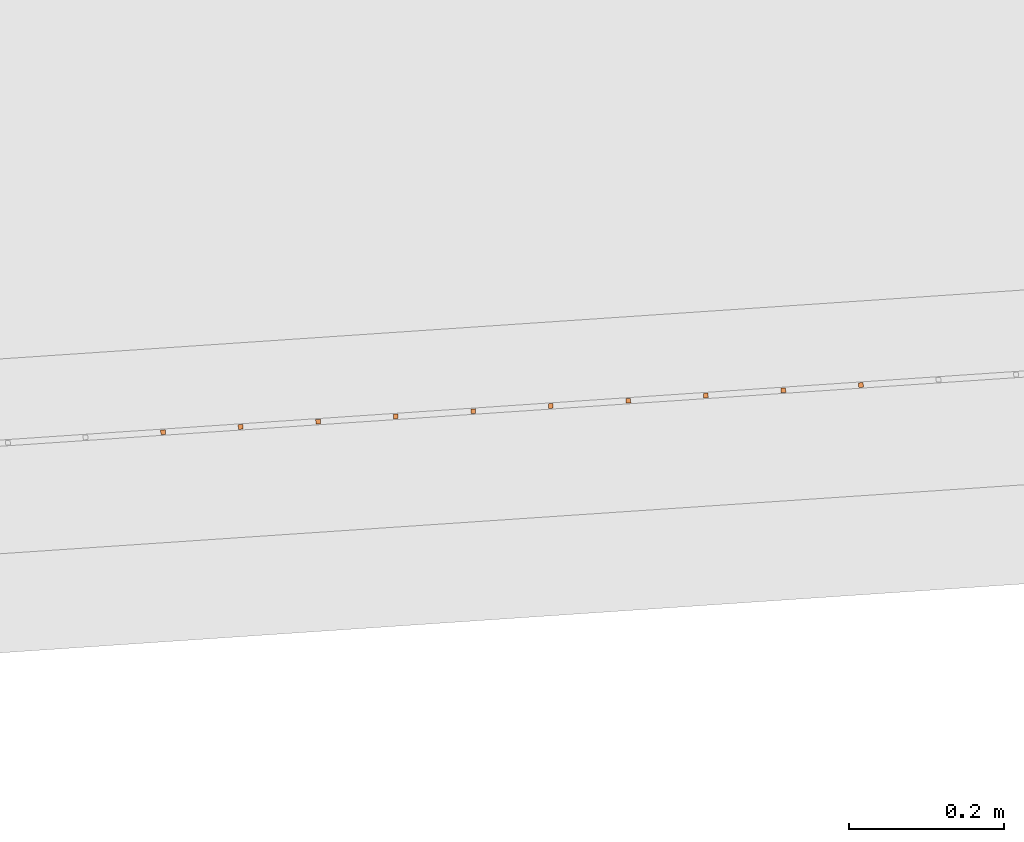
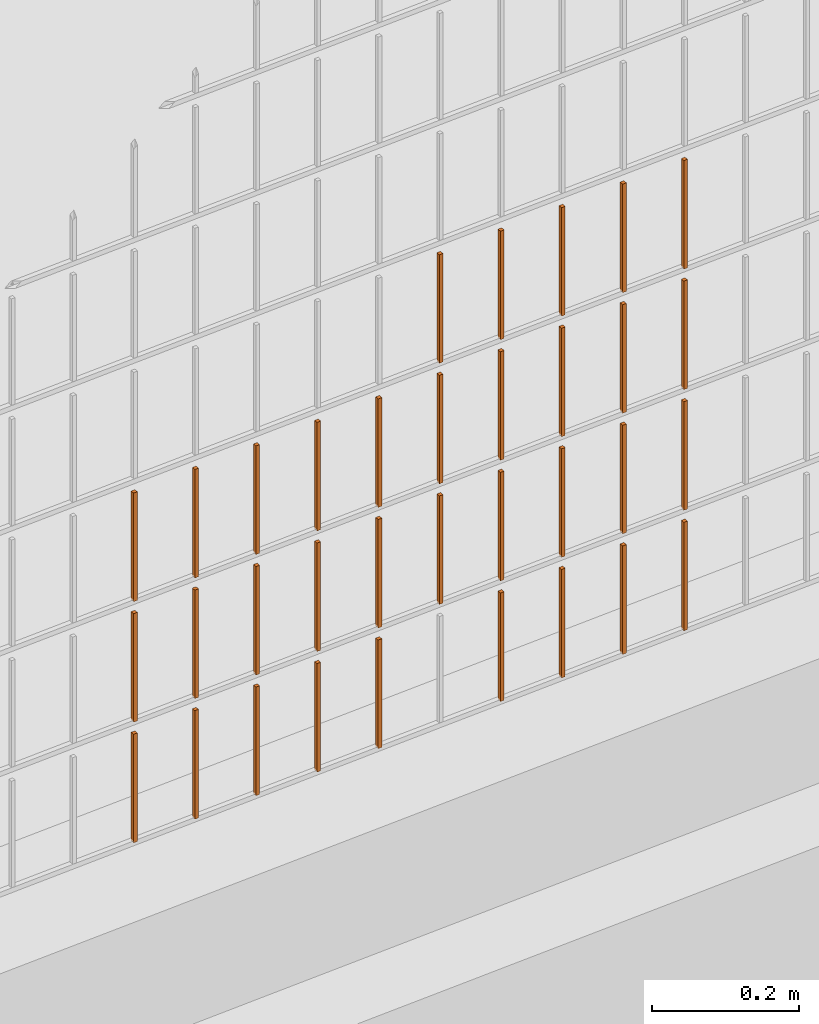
# One storey, part 286 of 1809: 34 proxies, 1 element without a shape of its own.
"""IFC2X3 building model written with IfcOpenShell, lengths in millimetres."""

import ifcopenshell
import ifcopenshell.guid

model = None  # the IFC model being written
_history = None  # IfcOwnerHistory: only IFC2X3 demands one
_inside = {}  # id of a spatial element -> (the spatial element, [elements in it])
_under = {}  # id of a project, library or spatial element -> (it, [spatial elements below it])
_declared = {}  # id of a project -> (the project, [libraries it declares])
_typed = {}  # id of a type object -> (the type object, [elements of that type])
_made_of = {}  # id of a material, layer set ... -> (it, [elements and type objects made of it])


def new_model(schema):
    """Start an empty IFC model of exactly this schema.

    Asked for "IFC4X3", IfcOpenShell would pick the latest addendum, in which some entities
    have other attributes; the version numbers below select the first issue.
    IFC2X3 requires an IfcOwnerHistory on every rooted entity: one is made here for all.
    """
    global model, _history
    if schema == "IFC4X3":
        model = ifcopenshell.file(schema_version=(4, 3, 0, 0))
    else:
        model = ifcopenshell.file(schema=schema)
    _inside.clear()
    _under.clear()
    _declared.clear()
    _typed.clear()
    _made_of.clear()
    _history = None
    if model.schema == "IFC2X3":
        org = make("IfcOrganization", Name="unknown")
        user = make(
            "IfcPersonAndOrganization",
            ThePerson=make("IfcPerson", FamilyName="unknown"),
            TheOrganization=org,
        )
        app = make(
            "IfcApplication",
            ApplicationDeveloper=org,
            Version="unknown",
            ApplicationFullName="unknown",
            ApplicationIdentifier="unknown",
        )
        _history = make(
            "IfcOwnerHistory",
            OwningUser=user,
            OwningApplication=app,
            ChangeAction="ADDED",
            CreationDate=0,
        )
    return model


def make(cls, **values):
    """One entity of the class cls with the attributes given. An attribute that is None is left unset."""
    return model.create_entity(
        cls, **{name: value for name, value in values.items() if value is not None}
    )


def entity(cls, *values):
    """Any entity or typed value of the class cls, its attributes in the order of the schema. None: left unset."""
    e = model.create_entity(cls)
    for i, value in enumerate(values):
        if value is not None:
            e[i] = value
    return e


def rooted(cls, **values):
    """An entity with a GlobalId (a new one), such as an element, a storey or a relation."""
    return make(cls, GlobalId=ifcopenshell.guid.new(), OwnerHistory=_history, **values)


def si_unit(unit_type, name, prefix=None):
    """IfcSIUnit, for example si_unit("LENGTHUNIT", "METRE", prefix="MILLI")."""
    return make("IfcSIUnit", UnitType=unit_type, Prefix=prefix, Name=name)


def converted_unit(unit_type, name, factor, base, dimensions=None, offset=None):
    """IfcConversionBasedUnit, such as the inch: factor (a typed value) times the base unit."""
    return make(
        "IfcConversionBasedUnit"
        if offset is None
        else "IfcConversionBasedUnitWithOffset",
        ConversionOffset=offset,
        Dimensions=None
        if dimensions is None
        else entity("IfcDimensionalExponents", *dimensions),
        UnitType=unit_type,
        Name=name,
        ConversionFactor=make(
            "IfcMeasureWithUnit", ValueComponent=factor, UnitComponent=base
        ),
    )


def derived_unit(unit_type, elements):
    """IfcDerivedUnit: a product of units, each with its exponent."""
    return make(
        "IfcDerivedUnit",
        Elements=[
            make("IfcDerivedUnitElement", Unit=unit, Exponent=power)
            for unit, power in elements
        ],
        UnitType=unit_type,
    )


def money_unit(currency):
    """IfcMonetaryUnit."""
    return make("IfcMonetaryUnit", Currency=currency)


def assignment(units):
    """IfcUnitAssignment: the units of a project."""
    return None if units is None else make("IfcUnitAssignment", Units=units)


def point(xyz):
    """IfcCartesianPoint."""
    return None if xyz is None else make("IfcCartesianPoint", Coordinates=xyz)


def direction(xyz):
    """IfcDirection."""
    return None if xyz is None else make("IfcDirection", DirectionRatios=xyz)


def frame(location, z_axis=None, x_axis=None):
    """IfcAxis2Placement3D, a coordinate frame: its origin and axes. An axis left out is left unset."""
    return make(
        "IfcAxis2Placement3D",
        Location=point(location),
        Axis=direction(z_axis),
        RefDirection=direction(x_axis),
    )


def origin_with_axes():
    """The frame at (0, 0, 0) with the z axis (0, 0, 1) and the x axis (1, 0, 0) written out."""
    return frame((0.0, 0.0, 0.0), z_axis=(0.0, 0.0, 1.0), x_axis=(1.0, 0.0, 0.0))


def place(relative_to, where):
    """IfcLocalPlacement: puts the frame where relative to a parent placement (None: the world)."""
    return make(
        "IfcLocalPlacement", PlacementRelTo=relative_to, RelativePlacement=where
    )


def context(
    kind, dimensions, precision=None, world=None, true_north=None, identifier=None
):
    """IfcGeometricRepresentationContext, for example the 3D "Model" context."""
    return make(
        "IfcGeometricRepresentationContext",
        ContextIdentifier=identifier,
        ContextType=kind,
        CoordinateSpaceDimension=dimensions,
        Precision=precision,
        WorldCoordinateSystem=world,
        TrueNorth=true_north,
    )


def subcontext(parent, identifier, kind, view, scale=None):
    """IfcGeometricRepresentationSubContext, for example "Body" below "Model"."""
    return make(
        "IfcGeometricRepresentationSubContext",
        ContextIdentifier=identifier,
        ContextType=kind,
        ParentContext=parent,
        TargetScale=scale,
        TargetView=view,
    )


def project(units=None, contexts=None):
    """IfcProject with its units and contexts."""
    return rooted(
        "IfcProject",
        Name="project",
        RepresentationContexts=contexts,
        UnitsInContext=assignment(units),
    )


def spatial(cls, under=None, at=None, **own):
    """A site, building, storey or space (cls), placed at a placement, below another one or the project."""
    s = rooted(cls, ObjectPlacement=at, **own)
    if under is not None:
        _under.setdefault(under.id(), (under, []))[1].append(s)
    return s


def faces_of(points, faces, orient=None, outer=None):
    """IfcFace entities. A face is a list of loops; a loop is a list of indices into points, from 0.

    orient and outer hold one flag for each loop. By default every Orientation is true, the
    first loop of a face is its IfcFaceOuterBound and the others are IfcFaceBound.
    """
    made = []
    for i, loops in enumerate(faces):
        bounds = []
        for j, loop in enumerate(loops):
            is_outer = j == 0 if outer is None else outer[i][j]
            bounds.append(
                make(
                    "IfcFaceOuterBound" if is_outer else "IfcFaceBound",
                    Bound=make("IfcPolyLoop", Polygon=[points[k] for k in loop]),
                    Orientation=True if orient is None else orient[i][j],
                )
            )
        made.append(make("IfcFace", Bounds=bounds))
    return made


def faceted_brep(points, faces, orient=None, outer=None, voids=None):
    """IfcFacetedBrep: a solid bounded by flat faces; with voids (closed shells), ...WithVoids."""
    shared = [point(p) for p in points]
    hull = make("IfcClosedShell", CfsFaces=faces_of(shared, faces, orient, outer))
    if voids is None:
        return make("IfcFacetedBrep", Outer=hull)
    return make(
        "IfcFacetedBrepWithVoids",
        Outer=hull,
        Voids=[
            make(cls, CfsFaces=faces_of(shared, fs, o, b)) for cls, fs, o, b in voids
        ],
    )


def shape(context_of_items, identifier, shape_type, items):
    """IfcShapeRepresentation: the items that make up one representation, for example the "Body"."""
    return make(
        "IfcShapeRepresentation",
        ContextOfItems=context_of_items,
        RepresentationIdentifier=identifier,
        RepresentationType=shape_type,
        Items=items,
    )


def source(mapping_origin, context_of_items, identifier, shape_type, items):
    """IfcRepresentationMap: a shape defined once, which mapped items show again and again."""
    return make(
        "IfcRepresentationMap",
        MappingOrigin=mapping_origin,
        MappedRepresentation=shape(context_of_items, identifier, shape_type, items),
    )


def transform(
    local_origin,
    x_axis=None,
    y_axis=None,
    z_axis=None,
    scale=None,
    scale2=None,
    scale3=None,
    uniform=True,
):
    """IfcCartesianTransformationOperator3D, or its non-uniform kind. x_axis, y_axis, z_axis: its Axis1, 2, 3."""
    if uniform:
        return make(
            "IfcCartesianTransformationOperator3D",
            Axis1=direction(x_axis),
            Axis2=direction(y_axis),
            LocalOrigin=point(local_origin),
            Scale=scale,
            Axis3=direction(z_axis),
        )
    return make(
        "IfcCartesianTransformationOperator3DnonUniform",
        Axis1=direction(x_axis),
        Axis2=direction(y_axis),
        LocalOrigin=point(local_origin),
        Scale=scale,
        Axis3=direction(z_axis),
        Scale2=scale2,
        Scale3=scale3,
    )


def mapped(mapping_source, mapping_target):
    """IfcMappedItem: shows the shape of a source again, moved by a transform."""
    return make(
        "IfcMappedItem", MappingSource=mapping_source, MappingTarget=mapping_target
    )


def material(Name=None, Category=None):
    """IfcMaterial."""
    return make("IfcMaterial", Name=Name, Category=Category)


def made_of(thing, what):
    """Note that an element or type object is made of a material, layer set ...; save() writes the relation."""
    if what is not None:
        _made_of.setdefault(what.id(), (what, []))[1].append(thing)
    return thing


def type_object(cls, material=None, **own):
    """A type object (cls), such as IfcWallType, which elements share."""
    return made_of(rooted(cls, **own), material)


def element(
    cls,
    number,
    at=None,
    inside=None,
    cuts=None,
    type_object=None,
    material=None,
    context=None,
    identifier="Body",
    shape_type=None,
    held_by="IfcProductDefinitionShape",
    body=None,
    shapes=None,
    **own,
):
    """One element of the class cls, such as IfcWall. Its Tag is "e" and its number.

    at: its placement. inside: the storey or other place that contains it. cuts: it is an
    opening in that element (IfcRelVoidsElement). A single representation is given by context,
    identifier, shape_type and body (its items); several are given by shapes. held_by: the class
    of the entity that holds the representations. save() writes the other relations.
    """
    e = rooted(cls, Tag="e%d" % number, ObjectPlacement=at, **own)
    if body is not None:
        shapes = [shape(context, identifier, shape_type, body)]
    if shapes is not None:
        e.Representation = make(held_by, Representations=shapes)
    if inside is not None:
        _inside.setdefault(inside.id(), (inside, []))[1].append(e)
    if cuts is not None:
        rooted(
            "IfcRelVoidsElement", RelatingBuildingElement=cuts, RelatedOpeningElement=e
        )
    if type_object is not None:
        _typed.setdefault(type_object.id(), (type_object, []))[1].append(e)
    return made_of(e, material)


def aggregate(whole, parts):
    """IfcRelAggregates: a whole, such as a stair, and the parts it consists of."""
    return rooted("IfcRelAggregates", RelatingObject=whole, RelatedObjects=parts)


def save(model, path):
    """Write the relations noted so far, then the file.

    IfcRelAggregates (storeys below a building ...), IfcRelContainedInSpatialStructure (elements
    in a storey), IfcRelDefinesByType, IfcRelAssociatesMaterial and IfcRelDeclares: one each for
    every whole, place, type object, material and project.
    """
    for whole, parts in _under.values():
        aggregate(whole, parts)
    for where, things in _inside.values():
        rooted(
            "IfcRelContainedInSpatialStructure",
            RelatedElements=things,
            RelatingStructure=where,
        )
    for kind, things in _typed.values():
        rooted("IfcRelDefinesByType", RelatedObjects=things, RelatingType=kind)
    for what, things in _made_of.values():
        rooted("IfcRelAssociatesMaterial", RelatedObjects=things, RelatingMaterial=what)
    for by, libraries in _declared.values():
        rooted("IfcRelDeclares", RelatingContext=by, RelatedDefinitions=libraries)
    model.write(path)


model = new_model("IFC2X3")

# Units and contexts
model_context = context("Model", 3, precision=0.01, world=origin_with_axes(), true_north=direction((0.0, 1.0)))
body_context = subcontext(model_context, "Body", "Model", "MODEL_VIEW")
ifc_project = project(units=[si_unit("LENGTHUNIT", "METRE", prefix="MILLI"), si_unit("AREAUNIT", "SQUARE_METRE"), si_unit("VOLUMEUNIT", "CUBIC_METRE"), converted_unit("PLANEANGLEUNIT", "DEGREE", entity("IfcPlaneAngleMeasure", 0.0174532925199), si_unit("PLANEANGLEUNIT", "RADIAN"), dimensions=[0, 0, 0, 0, 0, 0, 0]), si_unit("SOLIDANGLEUNIT", "STERADIAN"), money_unit("EUR"), converted_unit("TIMEUNIT", "Year", entity("IfcTimeMeasure", 31556926.0), si_unit("TIMEUNIT", "SECOND"), dimensions=[0, 0, 1, 0, 0, 0, 0]), si_unit("MASSUNIT", "GRAM", prefix="KILO"), si_unit("THERMODYNAMICTEMPERATUREUNIT", "DEGREE_CELSIUS"), si_unit("LUMINOUSINTENSITYUNIT", "LUMEN"), si_unit("ENERGYUNIT", "JOULE", prefix="MEGA"), derived_unit("THERMALCONDUCTANCEUNIT", [(si_unit("POWERUNIT", "WATT"), 1), (si_unit("LENGTHUNIT", "METRE"), -1), (si_unit("THERMODYNAMICTEMPERATUREUNIT", "KELVIN"), -1)]), derived_unit("SPECIFICHEATCAPACITYUNIT", [(si_unit("ENERGYUNIT", "JOULE"), 1), (si_unit("MASSUNIT", "GRAM", prefix="KILO"), -1), (si_unit("THERMODYNAMICTEMPERATUREUNIT", "KELVIN"), -1)]), derived_unit("MASSDENSITYUNIT", [(si_unit("MASSUNIT", "GRAM", prefix="KILO"), 1), (si_unit("VOLUMEUNIT", "CUBIC_METRE"), -1)])], contexts=[model_context])

# Site, building, storey
site_placement = place(None, origin_with_axes())
site = spatial("IfcSite", under=ifc_project, at=site_placement, Name="Politse- ja Piirivalveameti ning Päästeameti ühishoone", CompositionType="ELEMENT")
building_placement = place(site_placement, origin_with_axes())
building = spatial("IfcBuilding", under=site, at=building_placement, Name="Politse- ja Piirivalveameti ning Päästeameti ühishoone", CompositionType="ELEMENT")
storey_placement = place(building_placement, origin_with_axes())
storey = spatial("IfcBuildingStorey", under=building, at=storey_placement, Name="Esimene korrus", CompositionType="ELEMENT", Elevation=0.0)

# Proxies
building_element_proxy_type_1 = type_object("IfcBuildingElementProxyType", Name="Railing Type", PredefinedType="NOTDEFINED")
proxy_1_placement = place(storey_placement, frame((89252.001212, -29183.4766571, 203.661247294), z_axis=(0.0, 0.0, 1.0), x_axis=(1.0, 0.0, 0.0)))
proxy_1 = element("IfcBuildingElementProxy", 1, at=proxy_1_placement, inside=storey, type_object=building_element_proxy_type_1, Name="PIIRDEAED")
ifc_material = material(Name="ET-03_Raud")
building_element_proxy_type_2 = type_object("IfcBuildingElementProxyType", Name="IfcBuildingElementProxy", PredefinedType="NOTDEFINED")
shared_shape_1 = source(origin_with_axes(), body_context, "Body", "Brep", [
    faceted_brep([(3.0, 3.0, -0.000752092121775), (-3.0, 3.0, -0.000752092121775), (-3.0, 3.0, 179.99926046), (3.0, 3.0, 179.99926046), (3.0, -3.0, 0.000752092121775), (-3.0, -3.0, 0.000752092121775), (-3.0, -3.0, 180.000764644), (3.0, -3.0, 180.000764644)], [[[0, 1, 2, 3]], [[0, 4, 5, 1]], [[1, 5, 6, 2]], [[3, 2, 6, 7]], [[4, 0, 3, 7]], [[5, 4, 7, 6]]]),
])
proxy_2_placement = place(proxy_1_placement, frame((-48316.5913585, -20561.3781676, 15.0939420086), z_axis=(0.0, 0.0, 1.0), x_axis=(1.0, 0.0, 0.0)))
proxy_2 = element("IfcBuildingElementProxy", 2, at=proxy_2_placement, type_object=building_element_proxy_type_2, material=ifc_material, Name="BALUSTER - 001", context=body_context, shape_type="MappedRepresentation", body=[
    mapped(shared_shape_1, transform((0.0, 0.0, 0.0), x_axis=(-0.0673926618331, 0.997726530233, 0.0), y_axis=(-0.997726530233, -0.0673926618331, 0.0), z_axis=(0.0, 0.0, 1.0))),
])
proxy_3_placement = place(proxy_1_placement, frame((-48815.4546236, -20595.0744985, 14.9685933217), z_axis=(0.0, 0.0, 1.0), x_axis=(1.0, 0.0, 0.0)))
proxy_3 = element("IfcBuildingElementProxy", 3, at=proxy_3_placement, type_object=building_element_proxy_type_2, material=ifc_material, Name="BALUSTER - 001", context=body_context, shape_type="MappedRepresentation", body=[
    mapped(shared_shape_1, transform((0.0, 0.0, 0.0), x_axis=(-0.0673926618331, 0.997726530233, 0.0), y_axis=(-0.997726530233, -0.0673926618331, 0.0), z_axis=(0.0, 0.0, 1.0))),
])
shared_shape_2 = source(origin_with_axes(), body_context, "Body", "Brep", [
    faceted_brep([(3.0, 3.0, -0.000752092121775), (-3.0, 3.0, -0.000752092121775), (-3.0, 3.0, 179.99926046), (3.0, 3.0, 179.99926046), (3.0, -3.0, 0.000752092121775), (-3.0, -3.0, 0.000752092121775), (-3.0, -3.0, 180.000764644), (3.0, -3.0, 180.000764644)], [[[0, 1, 2, 3]], [[0, 4, 5, 1]], [[1, 5, 6, 2]], [[3, 2, 6, 7]], [[4, 0, 3, 7]], [[5, 4, 7, 6]]]),
])
proxy_4_placement = place(proxy_1_placement, frame((-48416.3640115, -20568.1174338, 15.0688722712), z_axis=(0.0, 0.0, 1.0), x_axis=(1.0, 0.0, 0.0)))
proxy_4 = element("IfcBuildingElementProxy", 4, at=proxy_4_placement, type_object=building_element_proxy_type_2, material=ifc_material, Name="BALUSTER - 001", context=body_context, shape_type="MappedRepresentation", body=[
    mapped(shared_shape_2, transform((0.0, 0.0, 0.0), x_axis=(-0.0673926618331, 0.997726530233, 0.0), y_axis=(-0.997726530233, -0.0673926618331, 0.0), z_axis=(0.0, 0.0, 1.0))),
])
proxy_5_placement = place(proxy_1_placement, frame((-48316.5913585, -20561.3781676, 215.093942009), z_axis=(0.0, 0.0, 1.0), x_axis=(1.0, 0.0, 0.0)))
proxy_5 = element("IfcBuildingElementProxy", 5, at=proxy_5_placement, type_object=building_element_proxy_type_2, material=ifc_material, Name="BALUSTER - 001", context=body_context, shape_type="MappedRepresentation", body=[
    mapped(shared_shape_2, transform((0.0, 0.0, 0.0), x_axis=(-0.0673926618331, 0.997726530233, 0.0), y_axis=(-0.997726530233, -0.0673926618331, 0.0), z_axis=(0.0, 0.0, 1.0))),
])
shared_shape_3 = source(origin_with_axes(), body_context, "Body", "Brep", [
    faceted_brep([(3.0, 3.0, -0.000752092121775), (-3.0, 3.0, -0.000752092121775), (-3.0, 3.0, 179.99926046), (3.0, 3.0, 179.99926046), (3.0, -3.0, 0.000752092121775), (-3.0, -3.0, 0.000752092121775), (-3.0, -3.0, 180.000764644), (3.0, -3.0, 180.000764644)], [[[0, 1, 2, 3]], [[0, 4, 5, 1]], [[1, 5, 6, 2]], [[3, 2, 6, 7]], [[4, 0, 3, 7]], [[5, 4, 7, 6]]]),
])
proxy_6_placement = place(proxy_1_placement, frame((-48416.3640115, -20568.1174338, 215.068872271), z_axis=(0.0, 0.0, 1.0), x_axis=(1.0, 0.0, 0.0)))
proxy_6 = element("IfcBuildingElementProxy", 6, at=proxy_6_placement, type_object=building_element_proxy_type_2, material=ifc_material, Name="BALUSTER - 001", context=body_context, shape_type="MappedRepresentation", body=[
    mapped(shared_shape_3, transform((0.0, 0.0, 0.0), x_axis=(-0.0673926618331, 0.997726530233, 0.0), y_axis=(-0.997726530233, -0.0673926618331, 0.0), z_axis=(0.0, 0.0, 1.0))),
])
shared_shape_4 = source(origin_with_axes(), body_context, "Body", "Brep", [
    faceted_brep([(3.0, 3.0, -0.000752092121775), (-3.0, 3.0, -0.000752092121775), (-3.0, 3.0, 179.99926046), (3.0, 3.0, 179.99926046), (3.0, -3.0, 0.000752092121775), (-3.0, -3.0, 0.000752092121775), (-3.0, -3.0, 180.000764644), (3.0, -3.0, 180.000764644)], [[[0, 1, 2, 3]], [[0, 4, 5, 1]], [[1, 5, 6, 2]], [[3, 2, 6, 7]], [[4, 0, 3, 7]], [[5, 4, 7, 6]]]),
])
proxy_7_placement = place(proxy_1_placement, frame((-48416.3640115, -20568.1174338, 415.068872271), z_axis=(0.0, 0.0, 1.0), x_axis=(1.0, 0.0, 0.0)))
proxy_7 = element("IfcBuildingElementProxy", 7, at=proxy_7_placement, type_object=building_element_proxy_type_2, material=ifc_material, Name="BALUSTER - 001", context=body_context, shape_type="MappedRepresentation", body=[
    mapped(shared_shape_4, transform((0.0, 0.0, 0.0), x_axis=(-0.0673926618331, 0.997726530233, 0.0), y_axis=(-0.997726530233, -0.0673926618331, 0.0), z_axis=(0.0, 0.0, 1.0))),
])
proxy_8_placement = place(proxy_1_placement, frame((-48815.4546236, -20595.0744985, 414.968593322), z_axis=(0.0, 0.0, 1.0), x_axis=(1.0, 0.0, 0.0)))
proxy_8 = element("IfcBuildingElementProxy", 8, at=proxy_8_placement, type_object=building_element_proxy_type_2, material=ifc_material, Name="BALUSTER - 001", context=body_context, shape_type="MappedRepresentation", body=[
    mapped(shared_shape_4, transform((0.0, 0.0, 0.0), x_axis=(-0.0673926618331, 0.997726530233, 0.0), y_axis=(-0.997726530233, -0.0673926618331, 0.0), z_axis=(0.0, 0.0, 1.0))),
])
shared_shape_5 = source(origin_with_axes(), body_context, "Body", "Brep", [
    faceted_brep([(3.0, 3.0, -0.000752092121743), (-3.0, 3.0, -0.000752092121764), (-3.0, 3.0, 179.99926046), (3.0, 3.0, 179.99926046), (3.0, -3.0, 0.000752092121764), (-3.0, -3.0, 0.000752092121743), (-3.0, -3.0, 180.000764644), (3.0, -3.0, 180.000764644)], [[[0, 1, 2, 3]], [[0, 4, 5, 1]], [[1, 5, 6, 2]], [[3, 2, 6, 7]], [[4, 0, 3, 7]], [[5, 4, 7, 6]]]),
])
proxy_9_placement = place(proxy_1_placement, frame((-48715.6819706, -20588.3352324, 214.993663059), z_axis=(0.0, 0.0, 1.0), x_axis=(1.0, 0.0, 0.0)))
proxy_9 = element("IfcBuildingElementProxy", 9, at=proxy_9_placement, type_object=building_element_proxy_type_2, material=ifc_material, Name="BALUSTER - 001", context=body_context, shape_type="MappedRepresentation", body=[
    mapped(shared_shape_5, transform((0.0, 0.0, 0.0), x_axis=(-0.0673926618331, 0.997726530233, 0.0), y_axis=(-0.997726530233, -0.0673926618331, 0.0), z_axis=(0.0, 0.0, 1.0))),
])
proxy_10_placement = place(proxy_1_placement, frame((-48715.6819706, -20588.3352324, 414.993663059), z_axis=(0.0, 0.0, 1.0), x_axis=(1.0, 0.0, 0.0)))
proxy_10 = element("IfcBuildingElementProxy", 10, at=proxy_10_placement, type_object=building_element_proxy_type_2, material=ifc_material, Name="BALUSTER - 001", context=body_context, shape_type="MappedRepresentation", body=[
    mapped(shared_shape_5, transform((0.0, 0.0, 0.0), x_axis=(-0.0673926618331, 0.997726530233, 0.0), y_axis=(-0.997726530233, -0.0673926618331, 0.0), z_axis=(0.0, 0.0, 1.0))),
])
shared_shape_6 = source(origin_with_axes(), body_context, "Body", "Brep", [
    faceted_brep([(3.0, 3.0, -0.000752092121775), (-3.0, 3.0, -0.000752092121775), (-3.0, 3.0, 179.99926046), (3.0, 3.0, 179.99926046), (3.0, -3.0, 0.000752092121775), (-3.0, -3.0, 0.000752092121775), (-3.0, -3.0, 180.000764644), (3.0, -3.0, 180.000764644)], [[[0, 1, 2, 3]], [[0, 4, 5, 1]], [[1, 5, 6, 2]], [[3, 2, 6, 7]], [[4, 0, 3, 7]], [[5, 4, 7, 6]]]),
])
proxy_11_placement = place(proxy_1_placement, frame((-48316.5913585, -20561.3781676, 615.093942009), z_axis=(0.0, 0.0, 1.0), x_axis=(1.0, 0.0, 0.0)))
proxy_11 = element("IfcBuildingElementProxy", 11, at=proxy_11_placement, type_object=building_element_proxy_type_2, material=ifc_material, Name="BALUSTER - 001", context=body_context, shape_type="MappedRepresentation", body=[
    mapped(shared_shape_6, transform((0.0, 0.0, 0.0), x_axis=(-0.0673926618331, 0.997726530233, 0.0), y_axis=(-0.997726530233, -0.0673926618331, 0.0), z_axis=(0.0, 0.0, 1.0))),
])
shared_shape_7 = source(origin_with_axes(), body_context, "Body", "Brep", [
    faceted_brep([(3.0, 3.0, -0.000752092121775), (-3.0, 3.0, -0.000752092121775), (-3.0, 3.0, 179.99926046), (3.0, 3.0, 179.99926046), (3.0, -3.0, 0.000752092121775), (-3.0, -3.0, 0.000752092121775), (-3.0, -3.0, 180.000764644), (3.0, -3.0, 180.000764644)], [[[0, 1, 2, 3]], [[0, 4, 5, 1]], [[1, 5, 6, 2]], [[3, 2, 6, 7]], [[4, 0, 3, 7]], [[5, 4, 7, 6]]]),
])
proxy_12_placement = place(proxy_1_placement, frame((-48416.3640115, -20568.1174338, 615.068872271), z_axis=(0.0, 0.0, 1.0), x_axis=(1.0, 0.0, 0.0)))
proxy_12 = element("IfcBuildingElementProxy", 12, at=proxy_12_placement, type_object=building_element_proxy_type_2, material=ifc_material, Name="BALUSTER - 001", context=body_context, shape_type="MappedRepresentation", body=[
    mapped(shared_shape_7, transform((0.0, 0.0, 0.0), x_axis=(-0.0673926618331, 0.997726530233, 0.0), y_axis=(-0.997726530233, -0.0673926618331, 0.0), z_axis=(0.0, 0.0, 1.0))),
])
shared_shape_8 = source(origin_with_axes(), body_context, "Body", "Brep", [
    faceted_brep([(3.0, 3.0, -0.000752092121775), (-3.0, 3.0, -0.000752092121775), (-3.0, 3.0, 179.99926046), (3.0, 3.0, 179.99926046), (3.0, -3.0, 0.000752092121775), (-3.0, -3.0, 0.000752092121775), (-3.0, -3.0, 180.000764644), (3.0, -3.0, 180.000764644)], [[[0, 1, 2, 3]], [[0, 4, 5, 1]], [[1, 5, 6, 2]], [[3, 2, 6, 7]], [[4, 0, 3, 7]], [[5, 4, 7, 6]]]),
])
proxy_13_placement = place(proxy_1_placement, frame((-48316.5913585, -20561.3781676, 415.093942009), z_axis=(0.0, 0.0, 1.0), x_axis=(1.0, 0.0, 0.0)))
proxy_13 = element("IfcBuildingElementProxy", 13, at=proxy_13_placement, type_object=building_element_proxy_type_2, material=ifc_material, Name="BALUSTER - 001", context=body_context, shape_type="MappedRepresentation", body=[
    mapped(shared_shape_8, transform((0.0, 0.0, 0.0), x_axis=(-0.0673926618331, 0.997726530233, 0.0), y_axis=(-0.997726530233, -0.0673926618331, 0.0), z_axis=(0.0, 0.0, 1.0))),
])
shared_shape_9 = source(origin_with_axes(), body_context, "Body", "Brep", [
    faceted_brep([(3.0, 3.0, -0.000752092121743), (-3.0, 3.0, -0.000752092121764), (-3.0, 3.0, 179.99926046), (3.0, 3.0, 179.99926046), (3.0, -3.0, 0.000752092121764), (-3.0, -3.0, 0.000752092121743), (-3.0, -3.0, 180.000764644), (3.0, -3.0, 180.000764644)], [[[0, 1, 2, 3]], [[0, 4, 5, 1]], [[1, 5, 6, 2]], [[3, 2, 6, 7]], [[4, 0, 3, 7]], [[5, 4, 7, 6]]]),
])
proxy_14_placement = place(proxy_1_placement, frame((-48715.6819706, -20588.3352324, 14.9936630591), z_axis=(0.0, 0.0, 1.0), x_axis=(1.0, 0.0, 0.0)))
proxy_14 = element("IfcBuildingElementProxy", 14, at=proxy_14_placement, type_object=building_element_proxy_type_2, material=ifc_material, Name="BALUSTER - 001", context=body_context, shape_type="MappedRepresentation", body=[
    mapped(shared_shape_9, transform((0.0, 0.0, 0.0), x_axis=(-0.0673926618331, 0.997726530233, 0.0), y_axis=(-0.997726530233, -0.0673926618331, 0.0), z_axis=(0.0, 0.0, 1.0))),
])
shared_shape_10 = source(origin_with_axes(), body_context, "Body", "Brep", [
    faceted_brep([(3.0, 3.0, -0.000752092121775), (-3.0, 3.0, -0.000752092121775), (-3.0, 3.0, 179.99926046), (3.0, 3.0, 179.99926046), (3.0, -3.0, 0.000752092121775), (-3.0, -3.0, 0.000752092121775), (-3.0, -3.0, 180.000764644), (3.0, -3.0, 180.000764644)], [[[0, 1, 2, 3]], [[0, 4, 5, 1]], [[1, 5, 6, 2]], [[3, 2, 6, 7]], [[4, 0, 3, 7]], [[5, 4, 7, 6]]]),
])
proxy_15_placement = place(proxy_1_placement, frame((-48815.4546236, -20595.0744985, 214.968593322), z_axis=(0.0, 0.0, 1.0), x_axis=(1.0, 0.0, 0.0)))
proxy_15 = element("IfcBuildingElementProxy", 15, at=proxy_15_placement, type_object=building_element_proxy_type_2, material=ifc_material, Name="BALUSTER - 001", context=body_context, shape_type="MappedRepresentation", body=[
    mapped(shared_shape_10, transform((0.0, 0.0, 0.0), x_axis=(-0.0673926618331, 0.997726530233, 0.0), y_axis=(-0.997726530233, -0.0673926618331, 0.0), z_axis=(0.0, 0.0, 1.0))),
])
shared_shape_11 = source(origin_with_axes(), body_context, "Body", "Brep", [
    faceted_brep([(3.0, 3.0, -0.000752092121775), (-3.0, 3.0, -0.000752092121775), (-3.0, 3.0, 179.99926046), (3.0, 3.0, 179.99926046), (3.0, -3.0, 0.000752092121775), (-3.0, -3.0, 0.000752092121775), (-3.0, -3.0, 180.000764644), (3.0, -3.0, 180.000764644)], [[[0, 1, 2, 3]], [[0, 4, 5, 1]], [[1, 5, 6, 2]], [[3, 2, 6, 7]], [[4, 0, 3, 7]], [[5, 4, 7, 6]]]),
])
proxy_16_placement = place(proxy_1_placement, frame((-49014.9999296, -20608.5530309, 14.9184538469), z_axis=(0.0, 0.0, 1.0), x_axis=(1.0, 0.0, 0.0)))
proxy_16 = element("IfcBuildingElementProxy", 16, at=proxy_16_placement, type_object=building_element_proxy_type_2, material=ifc_material, Name="BALUSTER - 001", context=body_context, shape_type="MappedRepresentation", body=[
    mapped(shared_shape_11, transform((0.0, 0.0, 0.0), x_axis=(-0.0673926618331, 0.997726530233, 0.0), y_axis=(-0.997726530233, -0.0673926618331, 0.0), z_axis=(0.0, 0.0, 1.0))),
])
proxy_17_placement = place(proxy_1_placement, frame((-49014.9999296, -20608.5530309, 214.918453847), z_axis=(0.0, 0.0, 1.0), x_axis=(1.0, 0.0, 0.0)))
proxy_17 = element("IfcBuildingElementProxy", 17, at=proxy_17_placement, type_object=building_element_proxy_type_2, material=ifc_material, Name="BALUSTER - 001", context=body_context, shape_type="MappedRepresentation", body=[
    mapped(shared_shape_11, transform((0.0, 0.0, 0.0), x_axis=(-0.0673926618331, 0.997726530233, 0.0), y_axis=(-0.997726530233, -0.0673926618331, 0.0), z_axis=(0.0, 0.0, 1.0))),
])
shared_shape_12 = source(origin_with_axes(), body_context, "Body", "Brep", [
    faceted_brep([(3.0, 3.0, -0.000752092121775), (-3.0, 3.0, -0.000752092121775), (-3.0, 3.0, 179.99926046), (3.0, 3.0, 179.99926046), (3.0, -3.0, 0.000752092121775), (-3.0, -3.0, 0.000752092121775), (-3.0, -3.0, 180.000764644), (3.0, -3.0, 180.000764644)], [[[0, 1, 2, 3]], [[0, 4, 5, 1]], [[1, 5, 6, 2]], [[3, 2, 6, 7]], [[4, 0, 3, 7]], [[5, 4, 7, 6]]]),
])
proxy_18_placement = place(proxy_1_placement, frame((-48216.8187054, -20554.6389014, 415.119011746), z_axis=(0.0, 0.0, 1.0), x_axis=(1.0, 0.0, 0.0)))
proxy_18 = element("IfcBuildingElementProxy", 18, at=proxy_18_placement, type_object=building_element_proxy_type_2, material=ifc_material, Name="BALUSTER - 001", context=body_context, shape_type="MappedRepresentation", body=[
    mapped(shared_shape_12, transform((0.0, 0.0, 0.0), x_axis=(-0.0673926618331, 0.997726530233, 0.0), y_axis=(-0.997726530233, -0.0673926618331, 0.0), z_axis=(0.0, 0.0, 1.0))),
])
proxy_19_placement = place(proxy_1_placement, frame((-49014.9999296, -20608.5530309, 414.918453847), z_axis=(0.0, 0.0, 1.0), x_axis=(1.0, 0.0, 0.0)))
proxy_19 = element("IfcBuildingElementProxy", 19, at=proxy_19_placement, type_object=building_element_proxy_type_2, material=ifc_material, Name="BALUSTER - 001", context=body_context, shape_type="MappedRepresentation", body=[
    mapped(shared_shape_12, transform((0.0, 0.0, 0.0), x_axis=(-0.0673926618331, 0.997726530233, 0.0), y_axis=(-0.997726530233, -0.0673926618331, 0.0), z_axis=(0.0, 0.0, 1.0))),
])
proxy_20_placement = place(proxy_1_placement, frame((-48216.8187054, -20554.6389014, 615.119011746), z_axis=(0.0, 0.0, 1.0), x_axis=(1.0, 0.0, 0.0)))
proxy_20 = element("IfcBuildingElementProxy", 20, at=proxy_20_placement, type_object=building_element_proxy_type_2, material=ifc_material, Name="BALUSTER - 001", context=body_context, shape_type="MappedRepresentation", body=[
    mapped(shared_shape_12, transform((0.0, 0.0, 0.0), x_axis=(-0.0673926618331, 0.997726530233, 0.0), y_axis=(-0.997726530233, -0.0673926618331, 0.0), z_axis=(0.0, 0.0, 1.0))),
])
shared_shape_13 = source(origin_with_axes(), body_context, "Body", "Brep", [
    faceted_brep([(3.0, 3.0, -0.000752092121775), (-3.0, 3.0, -0.000752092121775), (-3.0, 3.0, 179.99926046), (3.0, 3.0, 179.99926046), (3.0, -3.0, 0.000752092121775), (-3.0, -3.0, 0.000752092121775), (-3.0, -3.0, 180.000764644), (3.0, -3.0, 180.000764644)], [[[0, 1, 2, 3]], [[0, 4, 5, 1]], [[1, 5, 6, 2]], [[3, 2, 6, 7]], [[4, 0, 3, 7]], [[5, 4, 7, 6]]]),
])
proxy_21_placement = place(proxy_1_placement, frame((-48216.8187054, -20554.6389014, 215.119011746), z_axis=(0.0, 0.0, 1.0), x_axis=(1.0, 0.0, 0.0)))
proxy_21 = element("IfcBuildingElementProxy", 21, at=proxy_21_placement, type_object=building_element_proxy_type_2, material=ifc_material, Name="BALUSTER - 001", context=body_context, shape_type="MappedRepresentation", body=[
    mapped(shared_shape_13, transform((0.0, 0.0, 0.0), x_axis=(-0.0673926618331, 0.997726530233, 0.0), y_axis=(-0.997726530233, -0.0673926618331, 0.0), z_axis=(0.0, 0.0, 1.0))),
])
shared_shape_14 = source(origin_with_axes(), body_context, "Body", "Brep", [
    faceted_brep([(3.0, 3.0, -0.000752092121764), (-3.0, 3.0, -0.000752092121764), (-3.0, 3.0, 179.99926046), (3.0, 3.0, 179.99926046), (3.0, -3.0, 0.000752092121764), (-3.0, -3.0, 0.000752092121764), (-3.0, -3.0, 180.000764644), (3.0, -3.0, 180.000764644)], [[[0, 1, 2, 3]], [[0, 4, 5, 1]], [[1, 5, 6, 2]], [[3, 2, 6, 7]], [[4, 0, 3, 7]], [[5, 4, 7, 6]]]),
])
proxy_22_placement = place(proxy_1_placement, frame((-48915.2272766, -20601.8137647, 14.9435235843), z_axis=(0.0, 0.0, 1.0), x_axis=(1.0, 0.0, 0.0)))
proxy_22 = element("IfcBuildingElementProxy", 22, at=proxy_22_placement, type_object=building_element_proxy_type_2, material=ifc_material, Name="BALUSTER - 001", context=body_context, shape_type="MappedRepresentation", body=[
    mapped(shared_shape_14, transform((0.0, 0.0, 0.0), x_axis=(-0.0673926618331, 0.997726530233, 0.0), y_axis=(-0.997726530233, -0.0673926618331, 0.0), z_axis=(0.0, 0.0, 1.0))),
])
shared_shape_15 = source(origin_with_axes(), body_context, "Body", "Brep", [
    faceted_brep([(3.0, 3.0, -0.000752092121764), (-3.0, 3.0, -0.000752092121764), (-3.0, 3.0, 179.99926046), (3.0, 3.0, 179.99926046), (3.0, -3.0, 0.000752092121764), (-3.0, -3.0, 0.000752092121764), (-3.0, -3.0, 180.000764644), (3.0, -3.0, 180.000764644)], [[[0, 1, 2, 3]], [[0, 4, 5, 1]], [[1, 5, 6, 2]], [[3, 2, 6, 7]], [[4, 0, 3, 7]], [[5, 4, 7, 6]]]),
])
proxy_23_placement = place(proxy_1_placement, frame((-48915.2272766, -20601.8137647, 414.943523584), z_axis=(0.0, 0.0, 1.0), x_axis=(1.0, 0.0, 0.0)))
proxy_23 = element("IfcBuildingElementProxy", 23, at=proxy_23_placement, type_object=building_element_proxy_type_2, material=ifc_material, Name="BALUSTER - 001", context=body_context, shape_type="MappedRepresentation", body=[
    mapped(shared_shape_15, transform((0.0, 0.0, 0.0), x_axis=(-0.0673926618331, 0.997726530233, 0.0), y_axis=(-0.997726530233, -0.0673926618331, 0.0), z_axis=(0.0, 0.0, 1.0))),
])
shared_shape_16 = source(origin_with_axes(), body_context, "Body", "Brep", [
    faceted_brep([(3.0, 3.0, -0.000752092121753), (-3.0, 3.0, -0.000752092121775), (-3.0, 3.0, 179.99926046), (3.0, 3.0, 179.99926046), (3.0, -3.0, 0.000752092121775), (-3.0, -3.0, 0.000752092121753), (-3.0, -3.0, 180.000764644), (3.0, -3.0, 180.000764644)], [[[0, 1, 2, 3]], [[0, 4, 5, 1]], [[1, 5, 6, 2]], [[3, 2, 6, 7]], [[4, 0, 3, 7]], [[5, 4, 7, 6]]]),
])
proxy_24_placement = place(proxy_1_placement, frame((-48516.1366645, -20574.8567, 215.043802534), z_axis=(0.0, 0.0, 1.0), x_axis=(1.0, 0.0, 0.0)))
proxy_24 = element("IfcBuildingElementProxy", 24, at=proxy_24_placement, type_object=building_element_proxy_type_2, material=ifc_material, Name="BALUSTER - 001", context=body_context, shape_type="MappedRepresentation", body=[
    mapped(shared_shape_16, transform((0.0, 0.0, 0.0), x_axis=(-0.0673926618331, 0.997726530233, 0.0), y_axis=(-0.997726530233, -0.0673926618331, 0.0), z_axis=(0.0, 0.0, 1.0))),
])
proxy_25_placement = place(proxy_1_placement, frame((-48516.1366645, -20574.8567, 415.043802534), z_axis=(0.0, 0.0, 1.0), x_axis=(1.0, 0.0, 0.0)))
proxy_25 = element("IfcBuildingElementProxy", 25, at=proxy_25_placement, type_object=building_element_proxy_type_2, material=ifc_material, Name="BALUSTER - 001", context=body_context, shape_type="MappedRepresentation", body=[
    mapped(shared_shape_16, transform((0.0, 0.0, 0.0), x_axis=(-0.0673926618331, 0.997726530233, 0.0), y_axis=(-0.997726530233, -0.0673926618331, 0.0), z_axis=(0.0, 0.0, 1.0))),
])
shared_shape_17 = source(origin_with_axes(), body_context, "Body", "Brep", [
    faceted_brep([(3.0, 3.0, -0.000752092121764), (-3.0, 3.0, -0.000752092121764), (-3.0, 3.0, 179.99926046), (3.0, 3.0, 179.99926046), (3.0, -3.0, 0.000752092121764), (-3.0, -3.0, 0.000752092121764), (-3.0, -3.0, 180.000764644), (3.0, -3.0, 180.000764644)], [[[0, 1, 2, 3]], [[0, 4, 5, 1]], [[1, 5, 6, 2]], [[3, 2, 6, 7]], [[4, 0, 3, 7]], [[5, 4, 7, 6]]]),
])
proxy_26_placement = place(proxy_1_placement, frame((-48915.2272766, -20601.8137647, 214.943523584), z_axis=(0.0, 0.0, 1.0), x_axis=(1.0, 0.0, 0.0)))
proxy_26 = element("IfcBuildingElementProxy", 26, at=proxy_26_placement, type_object=building_element_proxy_type_2, material=ifc_material, Name="BALUSTER - 001", context=body_context, shape_type="MappedRepresentation", body=[
    mapped(shared_shape_17, transform((0.0, 0.0, 0.0), x_axis=(-0.0673926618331, 0.997726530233, 0.0), y_axis=(-0.997726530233, -0.0673926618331, 0.0), z_axis=(0.0, 0.0, 1.0))),
])
shared_shape_18 = source(origin_with_axes(), body_context, "Body", "Brep", [
    faceted_brep([(3.0, 3.0, -0.000752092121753), (-3.0, 3.0, -0.000752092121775), (-3.0, 3.0, 179.99926046), (3.0, 3.0, 179.99926046), (3.0, -3.0, 0.000752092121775), (-3.0, -3.0, 0.000752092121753), (-3.0, -3.0, 180.000764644), (3.0, -3.0, 180.000764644)], [[[0, 1, 2, 3]], [[0, 4, 5, 1]], [[1, 5, 6, 2]], [[3, 2, 6, 7]], [[4, 0, 3, 7]], [[5, 4, 7, 6]]]),
])
proxy_27_placement = place(proxy_1_placement, frame((-48615.9093175, -20581.5959662, 415.018732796), z_axis=(0.0, 0.0, 1.0), x_axis=(1.0, 0.0, 0.0)))
proxy_27 = element("IfcBuildingElementProxy", 27, at=proxy_27_placement, type_object=building_element_proxy_type_2, material=ifc_material, Name="BALUSTER - 001", context=body_context, shape_type="MappedRepresentation", body=[
    mapped(shared_shape_18, transform((0.0, 0.0, 0.0), x_axis=(-0.0673926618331, 0.997726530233, 0.0), y_axis=(-0.997726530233, -0.0673926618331, 0.0), z_axis=(0.0, 0.0, 1.0))),
])
shared_shape_19 = source(origin_with_axes(), body_context, "Body", "Brep", [
    faceted_brep([(3.0, 3.0, -0.000752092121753), (-3.0, 3.0, -0.000752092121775), (-3.0, 3.0, 179.99926046), (3.0, 3.0, 179.99926046), (3.0, -3.0, 0.000752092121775), (-3.0, -3.0, 0.000752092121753), (-3.0, -3.0, 180.000764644), (3.0, -3.0, 180.000764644)], [[[0, 1, 2, 3]], [[0, 4, 5, 1]], [[1, 5, 6, 2]], [[3, 2, 6, 7]], [[4, 0, 3, 7]], [[5, 4, 7, 6]]]),
])
proxy_28_placement = place(proxy_1_placement, frame((-48615.9093175, -20581.5959662, 215.018732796), z_axis=(0.0, 0.0, 1.0), x_axis=(1.0, 0.0, 0.0)))
proxy_28 = element("IfcBuildingElementProxy", 28, at=proxy_28_placement, type_object=building_element_proxy_type_2, material=ifc_material, Name="BALUSTER - 001", context=body_context, shape_type="MappedRepresentation", body=[
    mapped(shared_shape_19, transform((0.0, 0.0, 0.0), x_axis=(-0.0673926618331, 0.997726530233, 0.0), y_axis=(-0.997726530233, -0.0673926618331, 0.0), z_axis=(0.0, 0.0, 1.0))),
])
shared_shape_20 = source(origin_with_axes(), body_context, "Body", "Brep", [
    faceted_brep([(3.0, 3.0, -0.000752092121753), (-3.0, 3.0, -0.000752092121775), (-3.0, 3.0, 179.99926046), (3.0, 3.0, 179.99926046), (3.0, -3.0, 0.000752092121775), (-3.0, -3.0, 0.000752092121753), (-3.0, -3.0, 180.000764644), (3.0, -3.0, 180.000764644)], [[[0, 1, 2, 3]], [[0, 4, 5, 1]], [[1, 5, 6, 2]], [[3, 2, 6, 7]], [[4, 0, 3, 7]], [[5, 4, 7, 6]]]),
])
proxy_29_placement = place(proxy_1_placement, frame((-48516.1366645, -20574.8567, 615.043802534), z_axis=(0.0, 0.0, 1.0), x_axis=(1.0, 0.0, 0.0)))
proxy_29 = element("IfcBuildingElementProxy", 29, at=proxy_29_placement, type_object=building_element_proxy_type_2, material=ifc_material, Name="BALUSTER - 001", context=body_context, shape_type="MappedRepresentation", body=[
    mapped(shared_shape_20, transform((0.0, 0.0, 0.0), x_axis=(-0.0673926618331, 0.997726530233, 0.0), y_axis=(-0.997726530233, -0.0673926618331, 0.0), z_axis=(0.0, 0.0, 1.0))),
])
shared_shape_21 = source(origin_with_axes(), body_context, "Body", "Brep", [
    faceted_brep([(3.0, 3.0, -0.000752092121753), (-3.0, 3.0, -0.000752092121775), (-3.0, 3.0, 179.99926046), (3.0, 3.0, 179.99926046), (3.0, -3.0, 0.000752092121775), (-3.0, -3.0, 0.000752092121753), (-3.0, -3.0, 180.000764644), (3.0, -3.0, 180.000764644)], [[[0, 1, 2, 3]], [[0, 4, 5, 1]], [[1, 5, 6, 2]], [[3, 2, 6, 7]], [[4, 0, 3, 7]], [[5, 4, 7, 6]]]),
])
proxy_30_placement = place(proxy_1_placement, frame((-48516.1366645, -20574.8567, 15.0438025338), z_axis=(0.0, 0.0, 1.0), x_axis=(1.0, 0.0, 0.0)))
proxy_30 = element("IfcBuildingElementProxy", 30, at=proxy_30_placement, type_object=building_element_proxy_type_2, material=ifc_material, Name="BALUSTER - 001", context=body_context, shape_type="MappedRepresentation", body=[
    mapped(shared_shape_21, transform((0.0, 0.0, 0.0), x_axis=(-0.0673926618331, 0.997726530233, 0.0), y_axis=(-0.997726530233, -0.0673926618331, 0.0), z_axis=(0.0, 0.0, 1.0))),
])
shared_shape_22 = source(origin_with_axes(), body_context, "Body", "Brep", [
    faceted_brep([(3.0, 3.0, -0.000752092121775), (-3.0, 3.0, -0.000752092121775), (-3.0, 3.0, 179.99926046), (3.0, 3.0, 179.99926046), (3.0, -3.0, 0.000752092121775), (-3.0, -3.0, 0.000752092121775), (-3.0, -3.0, 180.000764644), (3.0, -3.0, 180.000764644)], [[[0, 1, 2, 3]], [[0, 4, 5, 1]], [[1, 5, 6, 2]], [[3, 2, 6, 7]], [[4, 0, 3, 7]], [[5, 4, 7, 6]]]),
])
proxy_31_placement = place(proxy_1_placement, frame((-48216.8187054, -20554.6389014, 15.119011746), z_axis=(0.0, 0.0, 1.0), x_axis=(1.0, 0.0, 0.0)))
proxy_31 = element("IfcBuildingElementProxy", 31, at=proxy_31_placement, type_object=building_element_proxy_type_2, material=ifc_material, Name="BALUSTER - 001", context=body_context, shape_type="MappedRepresentation", body=[
    mapped(shared_shape_22, transform((0.0, 0.0, 0.0), x_axis=(-0.0673926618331, 0.997726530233, 0.0), y_axis=(-0.997726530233, -0.0673926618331, 0.0), z_axis=(0.0, 0.0, 1.0))),
])
shared_shape_23 = source(origin_with_axes(), body_context, "Body", "Brep", [
    faceted_brep([(3.0, 3.0, -0.000752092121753), (-3.0, 3.0, -0.000752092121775), (-3.0, 3.0, 179.99926046), (3.0, 3.0, 179.99926046), (3.0, -3.0, 0.000752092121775), (-3.0, -3.0, 0.000752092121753), (-3.0, -3.0, 180.000764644), (3.0, -3.0, 180.000764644)], [[[0, 1, 2, 3]], [[0, 4, 5, 1]], [[1, 5, 6, 2]], [[3, 2, 6, 7]], [[4, 0, 3, 7]], [[5, 4, 7, 6]]]),
])
proxy_32_placement = place(proxy_1_placement, frame((-49114.7725827, -20615.2922971, 214.893384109), z_axis=(0.0, 0.0, 1.0), x_axis=(1.0, 0.0, 0.0)))
proxy_32 = element("IfcBuildingElementProxy", 32, at=proxy_32_placement, type_object=building_element_proxy_type_2, material=ifc_material, Name="BALUSTER - 001", context=body_context, shape_type="MappedRepresentation", body=[
    mapped(shared_shape_23, transform((0.0, 0.0, 0.0), x_axis=(-0.0673926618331, 0.997726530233, 0.0), y_axis=(-0.997726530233, -0.0673926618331, 0.0), z_axis=(0.0, 0.0, 1.0))),
])
shared_shape_24 = source(origin_with_axes(), body_context, "Body", "Brep", [
    faceted_brep([(3.0, 3.0, -0.000752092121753), (-3.0, 3.0, -0.000752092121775), (-3.0, 3.0, 179.99926046), (3.0, 3.0, 179.99926046), (3.0, -3.0, 0.000752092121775), (-3.0, -3.0, 0.000752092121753), (-3.0, -3.0, 180.000764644), (3.0, -3.0, 180.000764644)], [[[0, 1, 2, 3]], [[0, 4, 5, 1]], [[1, 5, 6, 2]], [[3, 2, 6, 7]], [[4, 0, 3, 7]], [[5, 4, 7, 6]]]),
])
proxy_33_placement = place(proxy_1_placement, frame((-49114.7725827, -20615.2922971, 14.8933841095), z_axis=(0.0, 0.0, 1.0), x_axis=(1.0, 0.0, 0.0)))
proxy_33 = element("IfcBuildingElementProxy", 33, at=proxy_33_placement, type_object=building_element_proxy_type_2, material=ifc_material, Name="BALUSTER - 001", context=body_context, shape_type="MappedRepresentation", body=[
    mapped(shared_shape_24, transform((0.0, 0.0, 0.0), x_axis=(-0.0673926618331, 0.997726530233, 0.0), y_axis=(-0.997726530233, -0.0673926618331, 0.0), z_axis=(0.0, 0.0, 1.0))),
])
shared_shape_25 = source(origin_with_axes(), body_context, "Body", "Brep", [
    faceted_brep([(3.0, 3.0, -0.000752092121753), (-3.0, 3.0, -0.000752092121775), (-3.0, 3.0, 179.99926046), (3.0, 3.0, 179.99926046), (3.0, -3.0, 0.000752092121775), (-3.0, -3.0, 0.000752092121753), (-3.0, -3.0, 180.000764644), (3.0, -3.0, 180.000764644)], [[[0, 1, 2, 3]], [[0, 4, 5, 1]], [[1, 5, 6, 2]], [[3, 2, 6, 7]], [[4, 0, 3, 7]], [[5, 4, 7, 6]]]),
])
proxy_34_placement = place(proxy_1_placement, frame((-49114.7725827, -20615.2922971, 414.893384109), z_axis=(0.0, 0.0, 1.0), x_axis=(1.0, 0.0, 0.0)))
proxy_34 = element("IfcBuildingElementProxy", 34, at=proxy_34_placement, type_object=building_element_proxy_type_2, material=ifc_material, Name="BALUSTER - 001", context=body_context, shape_type="MappedRepresentation", body=[
    mapped(shared_shape_25, transform((0.0, 0.0, 0.0), x_axis=(-0.0673926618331, 0.997726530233, 0.0), y_axis=(-0.997726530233, -0.0673926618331, 0.0), z_axis=(0.0, 0.0, 1.0))),
])
shared_shape_26 = source(origin_with_axes(), body_context, "Body", "Brep", [
    faceted_brep([(3.0, 3.0, -0.000752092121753), (-3.0, 3.0, -0.000752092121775), (-3.0, 3.0, 179.99926046), (3.0, 3.0, 179.99926046), (3.0, -3.0, 0.000752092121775), (-3.0, -3.0, 0.000752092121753), (-3.0, -3.0, 180.000764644), (3.0, -3.0, 180.000764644)], [[[0, 1, 2, 3]], [[0, 4, 5, 1]], [[1, 5, 6, 2]], [[3, 2, 6, 7]], [[4, 0, 3, 7]], [[5, 4, 7, 6]]]),
])
proxy_35_placement = place(proxy_1_placement, frame((-48615.9093175, -20581.5959662, 615.018732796), z_axis=(0.0, 0.0, 1.0), x_axis=(1.0, 0.0, 0.0)))
proxy_35 = element("IfcBuildingElementProxy", 35, at=proxy_35_placement, type_object=building_element_proxy_type_2, material=ifc_material, Name="BALUSTER - 001", context=body_context, shape_type="MappedRepresentation", body=[
    mapped(shared_shape_26, transform((0.0, 0.0, 0.0), x_axis=(-0.0673926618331, 0.997726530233, 0.0), y_axis=(-0.997726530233, -0.0673926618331, 0.0), z_axis=(0.0, 0.0, 1.0))),
])
aggregate(proxy_1, [proxy_31, proxy_2, proxy_4, proxy_30, proxy_14, proxy_3, proxy_22, proxy_16, proxy_33, proxy_21, proxy_5, proxy_6, proxy_24, proxy_28, proxy_9, proxy_15, proxy_26, proxy_17, proxy_32, proxy_18, proxy_13, proxy_7, proxy_25, proxy_27, proxy_10, proxy_8, proxy_23, proxy_19, proxy_34, proxy_20, proxy_11, proxy_12, proxy_29, proxy_35])

save(model, "model.ifc")
